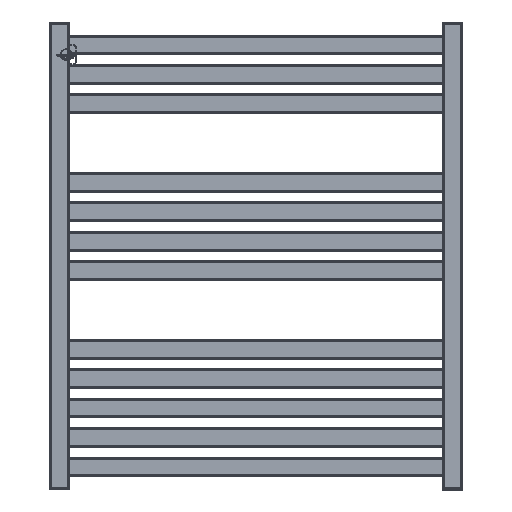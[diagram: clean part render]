
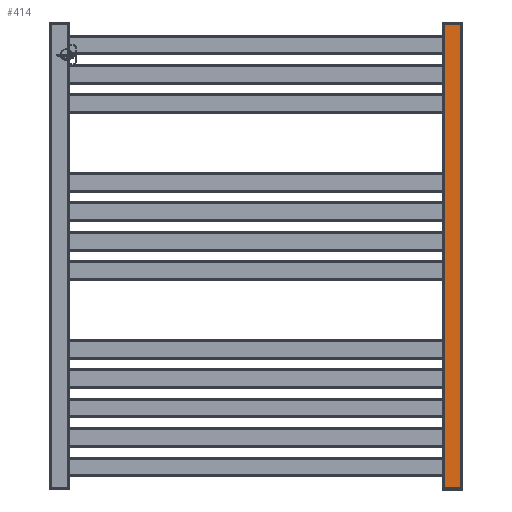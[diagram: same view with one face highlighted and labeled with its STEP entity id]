
A CAD part, front view. The second image highlights one B-rep face of the part: STEP entity #414.
In plain terms, the highlighted planar face has unit normal (0, -1, 0) as drawn and (-1, 0, 0) by its records, which use the part's own axes.
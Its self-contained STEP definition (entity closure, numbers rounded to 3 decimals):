
#414 = ADVANCED_FACE( '', ( #899 ), #900, .T. );
#899 = FACE_OUTER_BOUND( '', #1469, .T. );
#900 = PLANE( '', #1470 );
#1469 = EDGE_LOOP( '', ( #2649, #2650, #2651, #2652 ) );
#1470 = AXIS2_PLACEMENT_3D( '', #2653, #2654, #2655 );
#2649 = ORIENTED_EDGE( '', *, *, #3403, .T. );
#2650 = ORIENTED_EDGE( '', *, *, #3635, .T. );
#2651 = ORIENTED_EDGE( '', *, *, #3682, .F. );
#2652 = ORIENTED_EDGE( '', *, *, #3683, .T. );
#2653 = CARTESIAN_POINT( '', ( -15., 711., 15. ) );
#2654 = DIRECTION( '', ( -1., 0., 0. ) );
#2655 = DIRECTION( '', ( 0., 0., 1. ) );
#3403 = EDGE_CURVE( '', #4138, #4136, #4139, .T. );
#3635 = EDGE_CURVE( '', #4136, #4486, #4488, .T. );
#3682 = EDGE_CURVE( '', #4548, #4486, #4549, .T. );
#3683 = EDGE_CURVE( '', #4548, #4138, #4550, .F. );
#4136 = VERTEX_POINT( '', #5122 );
#4138 = VERTEX_POINT( '', #5124 );
#4139 = LINE( '', #5125, #5126 );
#4486 = VERTEX_POINT( '', #5588 );
#4488 = LINE( '', #5590, #5591 );
#4548 = VERTEX_POINT( '', #5675 );
#4549 = LINE( '', #5676, #5677 );
#4550 = LINE( '', #5678, #5679 );
#5122 = CARTESIAN_POINT( '', ( -15., 711., -12. ) );
#5124 = CARTESIAN_POINT( '', ( -15., 711., 12. ) );
#5125 = CARTESIAN_POINT( '', ( -15., 711., 15. ) );
#5126 = VECTOR( '', #6088, 1000. );
#5588 = CARTESIAN_POINT( '', ( -15., 0., -12. ) );
#5590 = CARTESIAN_POINT( '', ( -15., 711., -12. ) );
#5591 = VECTOR( '', #6411, 1000. );
#5675 = CARTESIAN_POINT( '', ( -15., 0., 12. ) );
#5676 = CARTESIAN_POINT( '', ( -15., 0., 15. ) );
#5677 = VECTOR( '', #6454, 1000. );
#5678 = CARTESIAN_POINT( '', ( -15., 711., 12. ) );
#5679 = VECTOR( '', #6455, 1000. );
#6088 = DIRECTION( '', ( 0., 0., -1. ) );
#6411 = DIRECTION( '', ( 0., -1., 0. ) );
#6454 = DIRECTION( '', ( 0., 0., -1. ) );
#6455 = DIRECTION( '', ( 0., -1., 0. ) );
